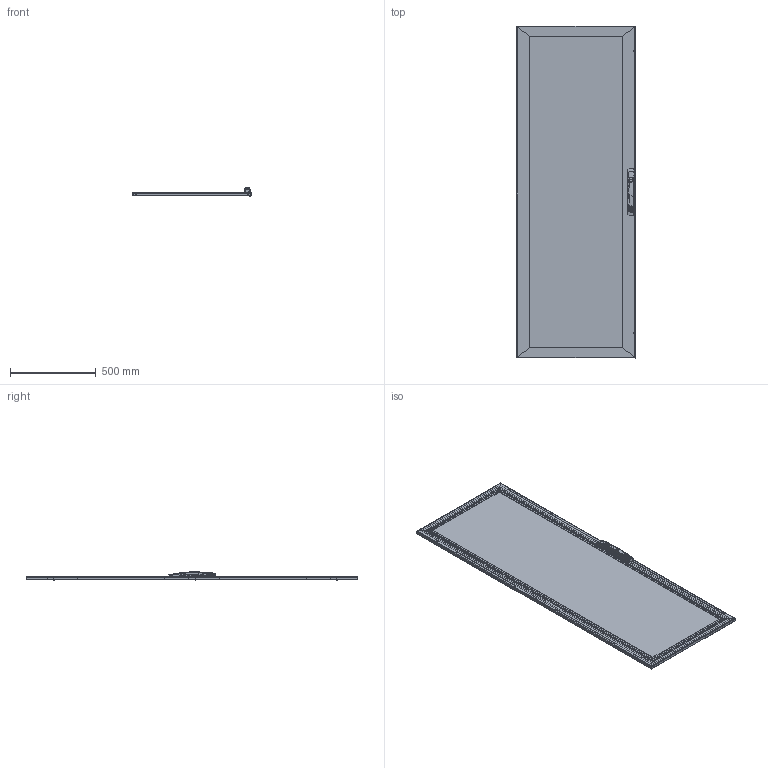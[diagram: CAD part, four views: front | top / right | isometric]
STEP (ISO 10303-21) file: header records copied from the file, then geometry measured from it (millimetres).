
FILE_DESCRIPTION (( 'STEP AP203' ), '1' );
FILE_NAME ('pdwg207g.STEP', '2013-10-16T10:40:37', ( '' ), ( '' ), 'SwSTEP 2.0', 'SolidWorks 2010', '' );
FILE_SCHEMA (( 'CONFIG_CONTROL_DESIGN' ));
Length unit declared in the file: inch
Products named in the file (48): 87950709_87950709; 31127339_31127339; 31127358_31127358; 87939353; 87939351_PEM FH-M4-8 X--C; 11458684_11458684; 31127347_31127347; 20127493_20127493; pdwg207g; 21458331_21458331; 21458326_21458326; 60127297_60127297; 60127173_60127173; 51232001_51232001; 60127277_60127277; 11158133_11581133; 11158132_THIKNESS .155 FIXED; 60127139_60127139; 87576035_87576035; 60127138_60127138; 60127140_60127140; 60127216_60127216; 60127175_60127175; 60127106_60127106; 60127224_60127224; 60127207; 46139001_46139001; 60127212; 60127208; 51137001; 60127093; 51138001_Compressed; 51223001; 46120001_Compressed; 11358765; 51145001_Extended; 11258014; 51231001; 11358763; 11258012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
Assembly tree (73 placements, depth 4):
  pdwg207g
    21458331_21458331  x2
    60127277_60127277  x3
      51232001_51232001
      60127173_60127173
    20127493_20127493
      87560473_87560473  x2
      87950709_87950709
      31127339_31127339  x2
      87950846_87950846
      31127347_31127347
        87939351_PEM FH-M4-8 X--C  x3
        87939353  x3
        11458684_11458684
      31127358_31127358
    21458326_21458326  x2
    60127297_60127297
    60127430
      60127093
      11358764
      51137001
      11258013
      60127212
      46139001_46139001  x2
      46120001_Compressed
      51138001_Compressed
      60127207
      51223001
      51145001_Extended
      60127208
      51140001
      11258014
      11258012
      11458037
      11358763
      11358765
      51231001
      11458036
    60127224_60127224
      11158132_THIKNESS .155 FIXED  x8
      11158133_11581133  x3
      60127139_60127139  x4
      60127216_60127216  x3
        60127140_60127140
        87576035_87576035
        60127138_60127138
      60127175_60127175  x2
      60127106_60127106
Bounding box: 692.91 x 1939 x 48.68 mm (x, y, z)
Volume: 8498216 mm3; surface area: 4097016.2 mm2
Topology: 73 solids, 73 shells, 3716 faces, 9732 edges, 6216 vertices
Faces by surface type: plane 1811, cylinder 1117, cone 311, torus 242, bspline 178, sphere 57
Entity records: 92796 total; most frequent: CARTESIAN_POINT 25831, ORIENTED_EDGE 13130, DIRECTION 12341, EDGE_CURVE 6565, AXIS2_PLACEMENT_3D 4277, VERTEX_POINT 4236, VECTOR 3787, LINE 3787
